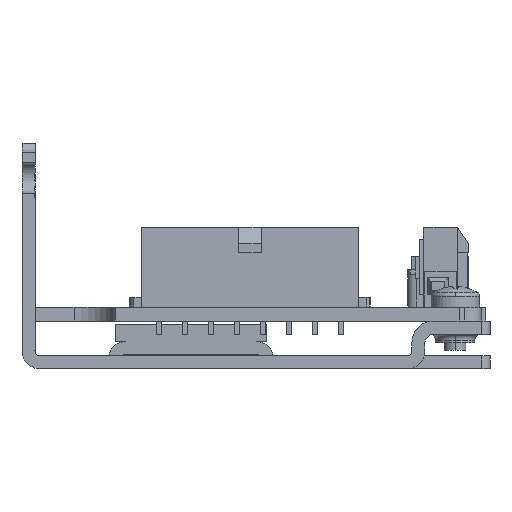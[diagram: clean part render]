
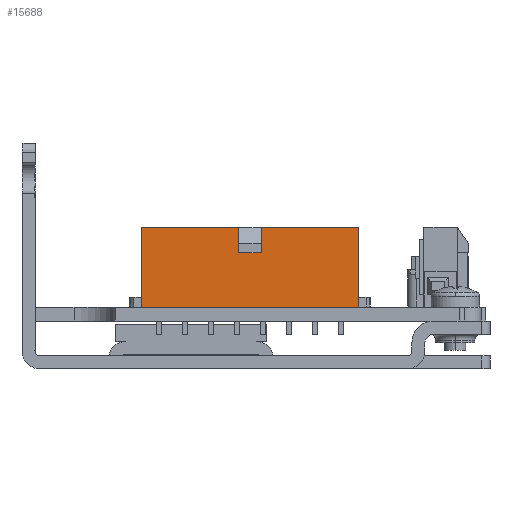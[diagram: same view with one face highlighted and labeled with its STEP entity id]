
A CAD part, left-side view. The second image highlights one B-rep face of the part: STEP entity #15688.
In plain terms, the highlighted planar face has unit normal (-1, 0, 0).
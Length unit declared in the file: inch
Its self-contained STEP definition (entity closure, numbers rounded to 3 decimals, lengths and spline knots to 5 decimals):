
#666 = ORIENTED_EDGE ( 'NONE', *, *, #27173, .T. ) ;
#725 = DIRECTION ( 'NONE',  ( 0., 0., 1. ) ) ;
#3323 = CARTESIAN_POINT ( 'NONE',  ( 0.16417, 1.03937, 0.52717 ) ) ;
#3412 = CARTESIAN_POINT ( 'NONE',  ( 0.16417, 1.58268, 0.64331 ) ) ;
#3432 = EDGE_CURVE ( 'NONE', #10818, #18498, #18470, .T. ) ;
#4016 = VECTOR ( 'NONE', #17751, 39.37008 ) ;
#5104 = EDGE_LOOP ( 'NONE', ( #18655, #5964, #29492, #666, #29148, #17593, #10235, #27168 ) ) ;
#5378 = VECTOR ( 'NONE', #8987, 39.37008 ) ;
#5572 = VERTEX_POINT ( 'NONE', #18112 ) ;
#5753 = DIRECTION ( 'NONE',  ( -1., 0., 0. ) ) ;
#5964 = ORIENTED_EDGE ( 'NONE', *, *, #23311, .T. ) ;
#6007 = VERTEX_POINT ( 'NONE', #27060 ) ;
#7425 = DIRECTION ( 'NONE',  ( 0., 1., 0. ) ) ;
#7904 = DIRECTION ( 'NONE',  ( 0., 0., 1. ) ) ;
#8098 = CARTESIAN_POINT ( 'NONE',  ( 0.16417, 1.14173, 0.52717 ) ) ;
#8495 = AXIS2_PLACEMENT_3D ( 'NONE', #3412, #5753, #21975 ) ;
#8897 = LINE ( 'NONE', #19484, #26745 ) ;
#8987 = DIRECTION ( 'NONE',  ( 0., 1., 0. ) ) ;
#9356 = VECTOR ( 'NONE', #14910, 39.37008 ) ;
#9662 = EDGE_CURVE ( 'NONE', #27117, #12960, #26768, .T. ) ;
#10235 = ORIENTED_EDGE ( 'NONE', *, *, #16797, .F. ) ;
#10588 = EDGE_CURVE ( 'NONE', #16844, #10818, #18310, .T. ) ;
#10818 = VERTEX_POINT ( 'NONE', #17290 ) ;
#11628 = CARTESIAN_POINT ( 'NONE',  ( 0.16417, 1.14173, 0.64331 ) ) ;
#11916 = EDGE_CURVE ( 'NONE', #27117, #6007, #22933, .T. ) ;
#12604 = CARTESIAN_POINT ( 'NONE',  ( 0.16417, 1.03937, 0.64331 ) ) ;
#12960 = VERTEX_POINT ( 'NONE', #21849 ) ;
#13627 = VECTOR ( 'NONE', #7425, 39.37008 ) ;
#13691 = FACE_OUTER_BOUND ( 'NONE', #5104, .T. ) ;
#14910 = DIRECTION ( 'NONE',  ( 0., 0., -1. ) ) ;
#15688 = ADVANCED_FACE ( 'NONE', ( #13691 ), #17308, .T. ) ;
#16009 = VECTOR ( 'NONE', #725, 39.37008 ) ;
#16450 = CARTESIAN_POINT ( 'NONE',  ( 0.16417, 1.58268, 0.64331 ) ) ;
#16609 = LINE ( 'NONE', #29499, #28297 ) ;
#16797 = EDGE_CURVE ( 'NONE', #12960, #18498, #8897, .T. ) ;
#16844 = VERTEX_POINT ( 'NONE', #8098 ) ;
#17290 = CARTESIAN_POINT ( 'NONE',  ( 0.16417, 1.14173, 0.64331 ) ) ;
#17308 = PLANE ( 'NONE',  #8495 ) ;
#17593 = ORIENTED_EDGE ( 'NONE', *, *, #3432, .T. ) ;
#17751 = DIRECTION ( 'NONE',  ( 0., 1., 0. ) ) ;
#18112 = CARTESIAN_POINT ( 'NONE',  ( 0.16417, 1.03937, 0.64331 ) ) ;
#18310 = LINE ( 'NONE', #11628, #29984 ) ;
#18470 = LINE ( 'NONE', #27624, #5378 ) ;
#18498 = VERTEX_POINT ( 'NONE', #16450 ) ;
#18655 = ORIENTED_EDGE ( 'NONE', *, *, #11916, .T. ) ;
#19484 = CARTESIAN_POINT ( 'NONE',  ( 0.16417, 1.58268, 0.64331 ) ) ;
#19976 = CARTESIAN_POINT ( 'NONE',  ( 0.16417, 1.58268, 0.52717 ) ) ;
#20853 = DIRECTION ( 'NONE',  ( 0., 0., 1. ) ) ;
#21784 = LINE ( 'NONE', #19976, #4016 ) ;
#21849 = CARTESIAN_POINT ( 'NONE',  ( 0.16417, 1.58268, 0.27953 ) ) ;
#21975 = DIRECTION ( 'NONE',  ( 0., -1., 0. ) ) ;
#22005 = CARTESIAN_POINT ( 'NONE',  ( 0.16417, 0.59843, 0.27953 ) ) ;
#22522 = DIRECTION ( 'NONE',  ( 0., 1., 0. ) ) ;
#22933 = LINE ( 'NONE', #26268, #16009 ) ;
#23129 = EDGE_CURVE ( 'NONE', #5572, #23757, #27937, .T. ) ;
#23311 = EDGE_CURVE ( 'NONE', #6007, #5572, #16609, .T. ) ;
#23693 = CARTESIAN_POINT ( 'NONE',  ( 0.16417, 2.09055, 0.27953 ) ) ;
#23757 = VERTEX_POINT ( 'NONE', #3323 ) ;
#26268 = CARTESIAN_POINT ( 'NONE',  ( 0.16417, 0.59843, 0.64331 ) ) ;
#26745 = VECTOR ( 'NONE', #7904, 39.37008 ) ;
#26768 = LINE ( 'NONE', #23693, #13627 ) ;
#27060 = CARTESIAN_POINT ( 'NONE',  ( 0.16417, 0.59843, 0.64331 ) ) ;
#27117 = VERTEX_POINT ( 'NONE', #22005 ) ;
#27168 = ORIENTED_EDGE ( 'NONE', *, *, #9662, .F. ) ;
#27173 = EDGE_CURVE ( 'NONE', #23757, #16844, #21784, .T. ) ;
#27624 = CARTESIAN_POINT ( 'NONE',  ( 0.16417, 1.58268, 0.64331 ) ) ;
#27937 = LINE ( 'NONE', #12604, #9356 ) ;
#28297 = VECTOR ( 'NONE', #22522, 39.37008 ) ;
#29148 = ORIENTED_EDGE ( 'NONE', *, *, #10588, .T. ) ;
#29492 = ORIENTED_EDGE ( 'NONE', *, *, #23129, .T. ) ;
#29499 = CARTESIAN_POINT ( 'NONE',  ( 0.16417, 1.58268, 0.64331 ) ) ;
#29984 = VECTOR ( 'NONE', #20853, 39.37008 ) ;
